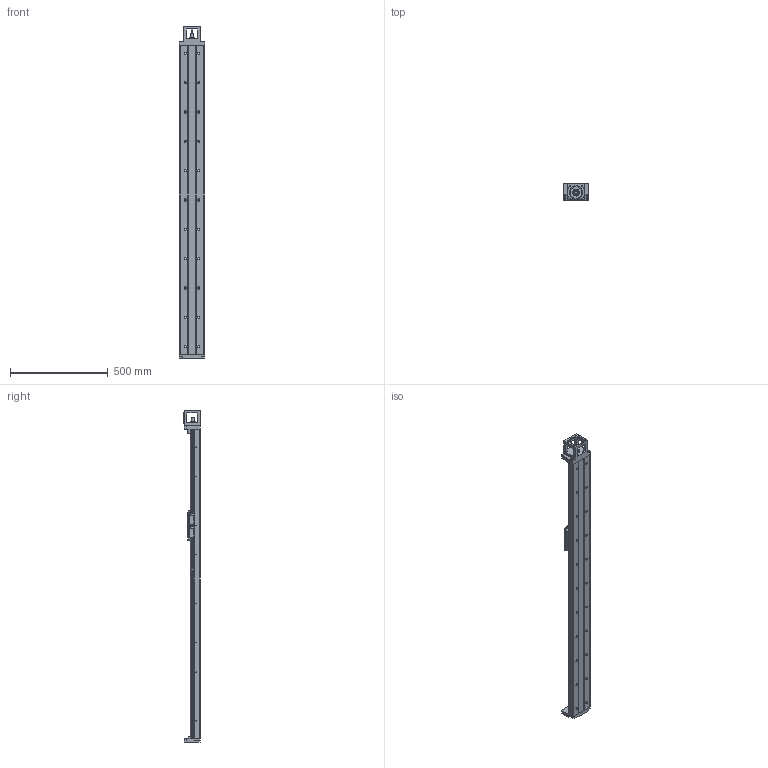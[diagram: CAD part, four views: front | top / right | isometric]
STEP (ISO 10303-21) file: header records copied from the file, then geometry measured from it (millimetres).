
FILE_DESCRIPTION(/* description */ (''),/* implementation_level */ '2;1');
FILE_NAME(/* name */ 'TKK130-1580A1F0.stp',/* time_stamp */ '2016-12-22T09:58:58+08:00',/* author */ (''),/* organization */ (''),/* preprocessor_version */ 'ST-DEVELOPER v15',/* originating_system */ 'SIEMENS PLM Software NX 8.5',/* authorisation */ '');
FILE_SCHEMA (('AUTOMOTIVE_DESIGN { 1 0 10303 214 3 1 1 1 }'));
Length unit declared in the file: millimetre
Products named in the file (3): 02; 01; TKK130-1580A1F0
Assembly tree (2 placements, depth 2):
  TKK130-1580A1F0
    01
    02
Bounding box: 130 x 85 x 1698 mm (x, y, z)
Volume: 6207643.4 mm3; surface area: 1001898.9 mm2
Topology: 2 solids, 19 shells, 972 faces, 2632 edges, 1722 vertices
Faces by surface type: plane 545, cylinder 287, cone 100, extrusion 33, bspline 6, torus 1
Full cylindrical faces by diameter (mm): 2.1 x16, 2.5 x4, 3.3 x37, 4.5 x16, 5 x23, 6.6 x10, 6.8 x8, 7 x2, 8 x8, 8.5 x4, 9 x8, 11 x26, 12 x4, 15 x1, 16.3 x1, 17 x24, 25 x1, 35 x2, 40 x3, 60.03 x1, 70.03 x1
Entity records: 29691 total; most frequent: CARTESIAN_POINT 6581, DIRECTION 4438, ORIENTED_EDGE 4206, EDGE_CURVE 2103, AXIS2_PLACEMENT_3D 1570, VERTEX_POINT 1569, EDGE_LOOP 1399, VECTOR 1298
